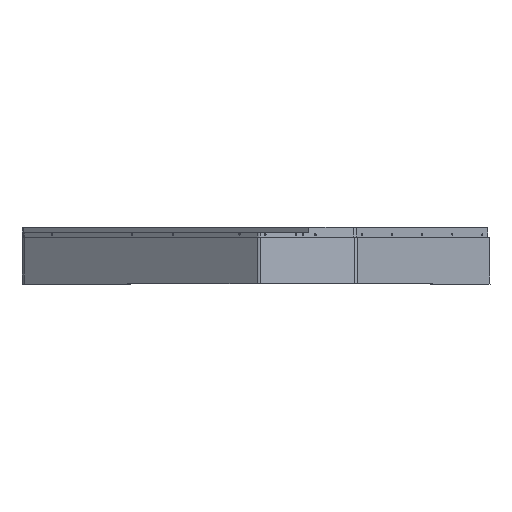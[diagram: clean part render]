
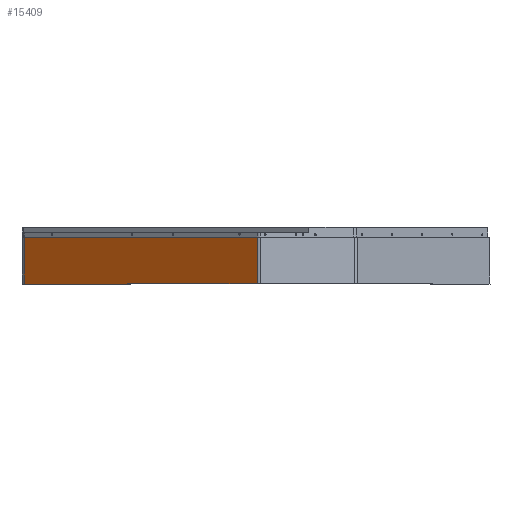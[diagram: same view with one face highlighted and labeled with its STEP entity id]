
A CAD part, top view. The second image highlights one B-rep face of the part: STEP entity #15409.
In plain terms, the highlighted planar face has unit normal (-0.641, 0, 0.768).
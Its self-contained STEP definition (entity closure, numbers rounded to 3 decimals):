
#143 = DIRECTION ( 'NONE',  ( 0.768, 0., 0.641 ) ) ;
#253 = ORIENTED_EDGE ( 'NONE', *, *, #698, .F. ) ;
#698 = EDGE_CURVE ( 'NONE', #11208, #3979, #4907, .T. ) ;
#1158 = LINE ( 'NONE', #16633, #20141 ) ;
#1200 = VERTEX_POINT ( 'NONE', #2885 ) ;
#2692 = VECTOR ( 'NONE', #5933, 1000. ) ;
#2885 = CARTESIAN_POINT ( 'NONE',  ( 538.393, 0., 824.228 ) ) ;
#3979 = VERTEX_POINT ( 'NONE', #19233 ) ;
#4247 = DIRECTION ( 'NONE',  ( 0., 1., 0. ) ) ;
#4391 = ORIENTED_EDGE ( 'NONE', *, *, #22059, .F. ) ;
#4907 = LINE ( 'NONE', #9467, #2692 ) ;
#5933 = DIRECTION ( 'NONE',  ( 0., 1., 0. ) ) ;
#6526 = CARTESIAN_POINT ( 'NONE',  ( 538.393, 130., 824.228 ) ) ;
#7478 = ORIENTED_EDGE ( 'NONE', *, *, #18595, .T. ) ;
#9265 = DIRECTION ( 'NONE',  ( -0.641, 0., 0.768 ) ) ;
#9467 = CARTESIAN_POINT ( 'NONE',  ( 2.593, 130., 377.152 ) ) ;
#9915 = EDGE_CURVE ( 'NONE', #1200, #11208, #10632, .T. ) ;
#10050 = VECTOR ( 'NONE', #15783, 1000. ) ;
#10491 = EDGE_LOOP ( 'NONE', ( #13578, #7478, #4391, #253 ) ) ;
#10632 = LINE ( 'NONE', #19477, #10050 ) ;
#11117 = CARTESIAN_POINT ( 'NONE',  ( -1., 130., 374.153 ) ) ;
#11208 = VERTEX_POINT ( 'NONE', #12320 ) ;
#12320 = CARTESIAN_POINT ( 'NONE',  ( 2.593, 0., 377.152 ) ) ;
#13578 = ORIENTED_EDGE ( 'NONE', *, *, #9915, .F. ) ;
#14147 = AXIS2_PLACEMENT_3D ( 'NONE', #11117, #9265, #143 ) ;
#14469 = CARTESIAN_POINT ( 'NONE',  ( 538.393, 107.5, 824.228 ) ) ;
#14538 = DIRECTION ( 'NONE',  ( 0.768, 0., 0.641 ) ) ;
#15409 = ADVANCED_FACE ( 'NONE', ( #23772 ), #18437, .T. ) ;
#15783 = DIRECTION ( 'NONE',  ( -0.768, 0., -0.641 ) ) ;
#16633 = CARTESIAN_POINT ( 'NONE',  ( 2.593, 107.5, 377.152 ) ) ;
#18288 = LINE ( 'NONE', #6526, #23148 ) ;
#18437 = PLANE ( 'NONE',  #14147 ) ;
#18595 = EDGE_CURVE ( 'NONE', #1200, #18719, #18288, .T. ) ;
#18719 = VERTEX_POINT ( 'NONE', #14469 ) ;
#19233 = CARTESIAN_POINT ( 'NONE',  ( 2.593, 107.5, 377.152 ) ) ;
#19477 = CARTESIAN_POINT ( 'NONE',  ( 538.393, 0., 824.228 ) ) ;
#20141 = VECTOR ( 'NONE', #14538, 1000. ) ;
#22059 = EDGE_CURVE ( 'NONE', #3979, #18719, #1158, .T. ) ;
#23148 = VECTOR ( 'NONE', #4247, 1000. ) ;
#23772 = FACE_OUTER_BOUND ( 'NONE', #10491, .T. ) ;
